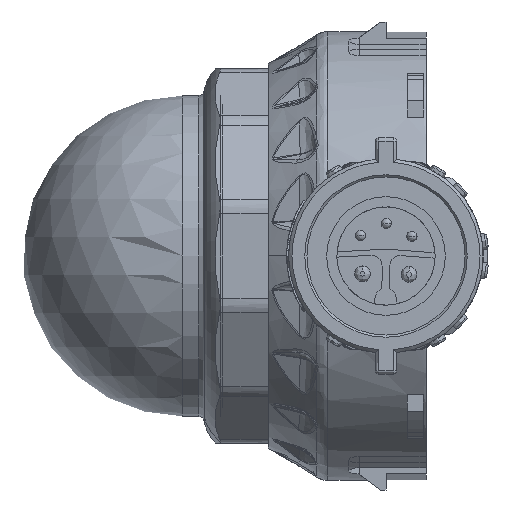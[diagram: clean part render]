
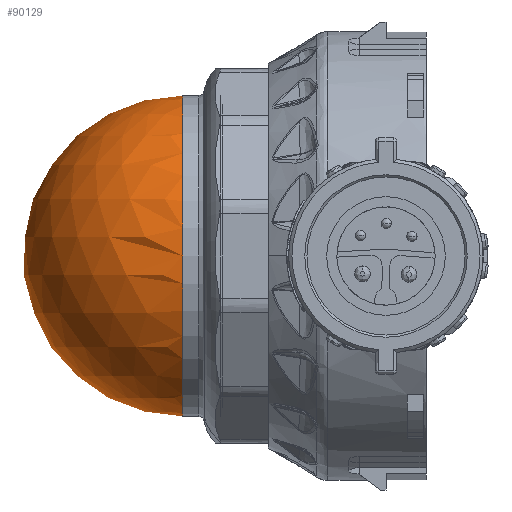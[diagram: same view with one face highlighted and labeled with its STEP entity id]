
A CAD part, left-side view. The second image highlights one B-rep face of the part: STEP entity #90129.
In plain terms, the highlighted spherical face has radius 15 mm.
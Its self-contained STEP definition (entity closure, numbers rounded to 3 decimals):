
#16040 = DIRECTION ( 'NONE',  ( 0., 1., 0. ) ) ;
#17208 = EDGE_CURVE ( 'NONE', #83133, #83133, #18377, .T. ) ;
#18377 = CIRCLE ( 'NONE', #26479, 15. ) ;
#21808 = ORIENTED_EDGE ( 'NONE', *, *, #17208, .T. ) ;
#26479 = AXIS2_PLACEMENT_3D ( 'NONE', #70227, #16040, #45942 ) ;
#36946 = SPHERICAL_SURFACE ( 'NONE', #82672, 15. ) ;
#45005 = DIRECTION ( 'NONE',  ( 0., 0., -1. ) ) ;
#45942 = DIRECTION ( 'NONE',  ( -1., 0., 0. ) ) ;
#53167 = CARTESIAN_POINT ( 'NONE',  ( -15., 22.75, 0. ) ) ;
#57147 = FACE_OUTER_BOUND ( 'NONE', #57208, .T. ) ;
#57208 = EDGE_LOOP ( 'NONE', ( #21808 ) ) ;
#68288 = CARTESIAN_POINT ( 'NONE',  ( 0., 22.75, 0. ) ) ;
#70227 = CARTESIAN_POINT ( 'NONE',  ( 0., 22.75, 0. ) ) ;
#82672 = AXIS2_PLACEMENT_3D ( 'NONE', #68288, #45005, #92195 ) ;
#83133 = VERTEX_POINT ( 'NONE', #53167 ) ;
#90129 = ADVANCED_FACE ( 'NONE', ( #57147 ), #36946, .T. ) ;
#92195 = DIRECTION ( 'NONE',  ( 1., 0., 0. ) ) ;
